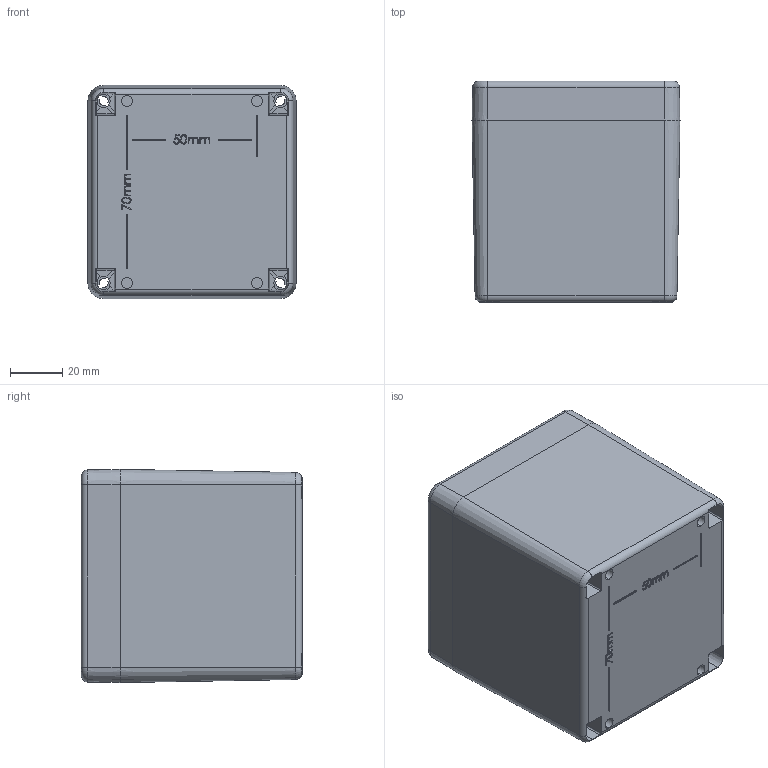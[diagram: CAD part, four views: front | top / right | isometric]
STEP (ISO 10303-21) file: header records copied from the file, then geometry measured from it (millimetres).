
FILE_DESCRIPTION (( 'STEP AP214' ), '1' );
FILE_NAME ('ZP 4 asm.STEP', '2014-10-27T11:30:39', ( '' ), ( '' ), 'SwSTEP 2.0', 'SolidWorks 2014', '' );
FILE_SCHEMA (( 'AUTOMOTIVE_DESIGN' ));
Length unit declared in the file: metre
Products named in the file (3): ZP 4 asm; ZP 4 Base; ZP 4 lid
Assembly tree (2 placements, depth 2):
  ZP 4 asm
    ZP 4 Base
    ZP 4 lid
Bounding box: 80 x 85.25 x 82 mm (x, y, z)
Volume: 121208.6 mm3; surface area: 96462.5 mm2
Topology: 2 solids, 2 shells, 687 faces, 1869 edges, 1204 vertices
Faces by surface type: plane 388, cone 152, cylinder 77, bspline 62, torus 8
Entity records: 25397 total; most frequent: CARTESIAN_POINT 8175, ORIENTED_EDGE 3698, DIRECTION 3365, EDGE_CURVE 1849, VECTOR 1217, LINE 1217, VERTEX_POINT 1204, AXIS2_PLACEMENT_3D 1074
